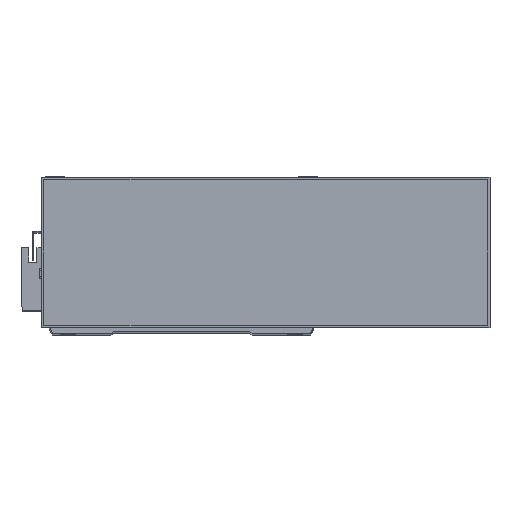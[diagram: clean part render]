
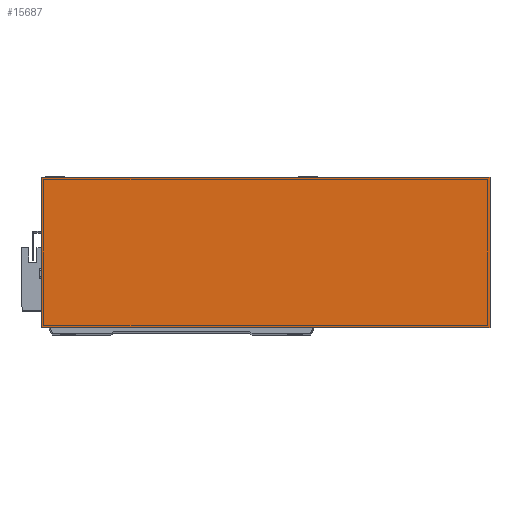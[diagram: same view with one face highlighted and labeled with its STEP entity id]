
A CAD part, top view. The second image highlights one B-rep face of the part: STEP entity #15687.
In plain terms, the highlighted planar face has unit normal (0, 0, 1).
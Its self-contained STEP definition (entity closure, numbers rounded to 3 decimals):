
#1264 = CARTESIAN_POINT ( 'NONE',  ( 0., 0., 50. ) ) ;
#2277 = CARTESIAN_POINT ( 'NONE',  ( 0., 93., 50. ) ) ;
#3004 = CARTESIAN_POINT ( 'NONE',  ( 0., 93., 50. ) ) ;
#3266 = LINE ( 'NONE', #19681, #25590 ) ;
#3868 = ORIENTED_EDGE ( 'NONE', *, *, #14816, .T. ) ;
#3877 = LINE ( 'NONE', #14849, #4555 ) ;
#4075 = DIRECTION ( 'NONE',  ( 0., -1., 0. ) ) ;
#4555 = VECTOR ( 'NONE', #4075, 1000. ) ;
#4566 = DIRECTION ( 'NONE',  ( 0., 1., 0. ) ) ;
#5715 = DIRECTION ( 'NONE',  ( 1., 0., 0. ) ) ;
#6669 = VERTEX_POINT ( 'NONE', #1264 ) ;
#7623 = ORIENTED_EDGE ( 'NONE', *, *, #16441, .T. ) ;
#7717 = VECTOR ( 'NONE', #9596, 1000. ) ;
#8138 = CARTESIAN_POINT ( 'NONE',  ( 0., 0., 50. ) ) ;
#9596 = DIRECTION ( 'NONE',  ( -1., 0., 0. ) ) ;
#10342 = DIRECTION ( 'NONE',  ( -1., 0., 0. ) ) ;
#11568 = VERTEX_POINT ( 'NONE', #2277 ) ;
#13437 = LINE ( 'NONE', #3004, #7717 ) ;
#14301 = CARTESIAN_POINT ( 'NONE',  ( 0., 0., 50. ) ) ;
#14365 = ORIENTED_EDGE ( 'NONE', *, *, #24697, .T. ) ;
#14816 = EDGE_CURVE ( 'NONE', #6669, #26710, #26696, .T. ) ;
#14849 = CARTESIAN_POINT ( 'NONE',  ( 0., 0., 50. ) ) ;
#15687 = ADVANCED_FACE ( 'NONE', ( #16510 ), #16692, .F. ) ;
#16441 = EDGE_CURVE ( 'NONE', #26710, #24088, #3266, .T. ) ;
#16510 = FACE_OUTER_BOUND ( 'NONE', #18184, .T. ) ;
#16692 = PLANE ( 'NONE',  #26164 ) ;
#16982 = ORIENTED_EDGE ( 'NONE', *, *, #17202, .T. ) ;
#17202 = EDGE_CURVE ( 'NONE', #24088, #11568, #13437, .T. ) ;
#18184 = EDGE_LOOP ( 'NONE', ( #14365, #3868, #7623, #16982 ) ) ;
#19043 = CARTESIAN_POINT ( 'NONE',  ( 277., 93., 50. ) ) ;
#19681 = CARTESIAN_POINT ( 'NONE',  ( 277., 0., 50. ) ) ;
#20268 = VECTOR ( 'NONE', #5715, 1000. ) ;
#22071 = CARTESIAN_POINT ( 'NONE',  ( 277., 0., 50. ) ) ;
#23197 = DIRECTION ( 'NONE',  ( 0., 0., -1. ) ) ;
#24088 = VERTEX_POINT ( 'NONE', #19043 ) ;
#24697 = EDGE_CURVE ( 'NONE', #11568, #6669, #3877, .T. ) ;
#25590 = VECTOR ( 'NONE', #4566, 1000. ) ;
#26164 = AXIS2_PLACEMENT_3D ( 'NONE', #8138, #23197, #10342 ) ;
#26696 = LINE ( 'NONE', #14301, #20268 ) ;
#26710 = VERTEX_POINT ( 'NONE', #22071 ) ;
